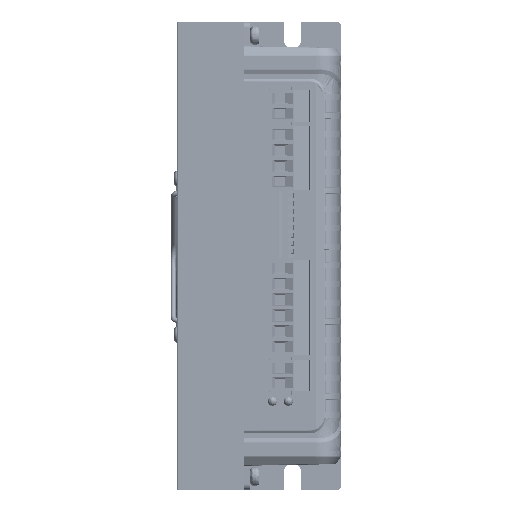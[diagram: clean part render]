
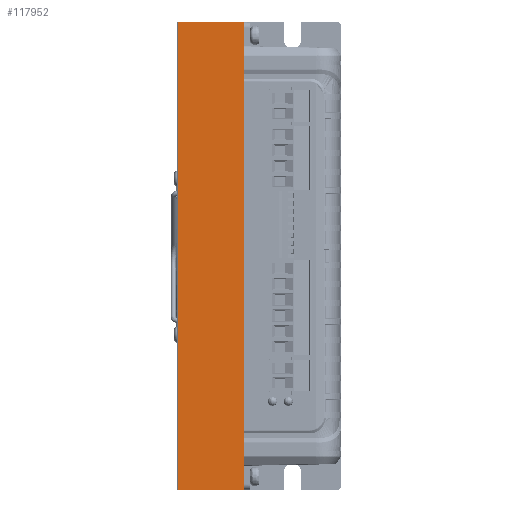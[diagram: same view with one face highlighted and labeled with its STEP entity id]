
A CAD part, front view. The second image highlights one B-rep face of the part: STEP entity #117952.
In plain terms, the highlighted planar face has unit normal (0, -1, 0).
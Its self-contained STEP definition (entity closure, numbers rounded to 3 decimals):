
#7562 = VERTEX_POINT ( 'NONE', #129837 ) ;
#12507 = DIRECTION ( 'NONE',  ( 1., 0., 0. ) ) ;
#18826 = DIRECTION ( 'NONE',  ( 0., 0., 1. ) ) ;
#21721 = EDGE_LOOP ( 'NONE', ( #235686, #219767, #207792, #144328 ) ) ;
#38390 = LINE ( 'NONE', #64608, #103148 ) ;
#40191 = VECTOR ( 'NONE', #166616, 1000. ) ;
#43123 = VERTEX_POINT ( 'NONE', #128361 ) ;
#43173 = AXIS2_PLACEMENT_3D ( 'NONE', #141097, #94383, #18826 ) ;
#64608 = CARTESIAN_POINT ( 'NONE',  ( -25.8, -52.293, 0. ) ) ;
#74400 = LINE ( 'NONE', #307997, #40191 ) ;
#94383 = DIRECTION ( 'NONE',  ( 0., 1., 0. ) ) ;
#95414 = PLANE ( 'NONE',  #43173 ) ;
#103148 = VECTOR ( 'NONE', #12507, 1000. ) ;
#110543 = VECTOR ( 'NONE', #302973, 1000. ) ;
#110618 = CARTESIAN_POINT ( 'NONE',  ( -25.8, -52.293, 150. ) ) ;
#117952 = ADVANCED_FACE ( 'NONE', ( #289840 ), #95414, .F. ) ;
#128361 = CARTESIAN_POINT ( 'NONE',  ( -4.7, -52.293, 150. ) ) ;
#129837 = CARTESIAN_POINT ( 'NONE',  ( -25.8, -52.293, 150. ) ) ;
#141097 = CARTESIAN_POINT ( 'NONE',  ( -25.8, -52.293, 150. ) ) ;
#142981 = EDGE_CURVE ( 'NONE', #7562, #43123, #251654, .T. ) ;
#143558 = EDGE_CURVE ( 'NONE', #248947, #218238, #38390, .T. ) ;
#144328 = ORIENTED_EDGE ( 'NONE', *, *, #242191, .T. ) ;
#145897 = CARTESIAN_POINT ( 'NONE',  ( -25.8, -52.293, 150. ) ) ;
#166616 = DIRECTION ( 'NONE',  ( 0., 0., -1. ) ) ;
#171714 = CARTESIAN_POINT ( 'NONE',  ( -25.8, -52.293, 0. ) ) ;
#207792 = ORIENTED_EDGE ( 'NONE', *, *, #142981, .F. ) ;
#217115 = DIRECTION ( 'NONE',  ( 1., 0., 0. ) ) ;
#218238 = VERTEX_POINT ( 'NONE', #237980 ) ;
#219767 = ORIENTED_EDGE ( 'NONE', *, *, #315688, .F. ) ;
#235686 = ORIENTED_EDGE ( 'NONE', *, *, #143558, .T. ) ;
#237980 = CARTESIAN_POINT ( 'NONE',  ( -4.7, -52.293, 0. ) ) ;
#242191 = EDGE_CURVE ( 'NONE', #7562, #248947, #308080, .T. ) ;
#248947 = VERTEX_POINT ( 'NONE', #171714 ) ;
#251654 = LINE ( 'NONE', #145897, #293258 ) ;
#289840 = FACE_OUTER_BOUND ( 'NONE', #21721, .T. ) ;
#293258 = VECTOR ( 'NONE', #217115, 1000. ) ;
#302973 = DIRECTION ( 'NONE',  ( 0., 0., -1. ) ) ;
#307997 = CARTESIAN_POINT ( 'NONE',  ( -4.7, -52.293, 150. ) ) ;
#308080 = LINE ( 'NONE', #110618, #110543 ) ;
#315688 = EDGE_CURVE ( 'NONE', #43123, #218238, #74400, .T. ) ;
